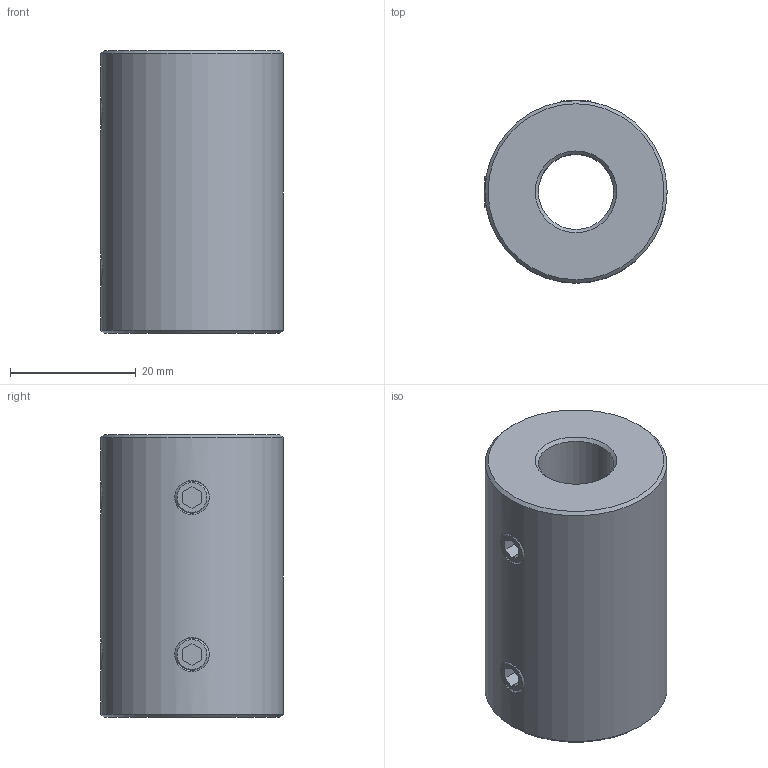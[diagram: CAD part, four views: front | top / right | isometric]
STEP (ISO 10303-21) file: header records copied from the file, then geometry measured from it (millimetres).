
FILE_DESCRIPTION (( 'STEP AP214' ), '1' );
FILE_NAME ('KBST1-VA-12.STEP', '2025-07-29T06:50:08', ( '' ), ( '' ), 'SwSTEP 2.0', 'SolidWorks 2024', '' );
FILE_SCHEMA (( 'AUTOMOTIVE_DESIGN' ));
Length unit declared in the file: millimetre
Products named in the file (1): KBST1-VA-12
Bounding box: 29 x 29 x 45 mm (x, y, z)
Volume: 24700.5 mm3; surface area: 8124.4 mm2
Topology: 5 solids, 5 shells, 80 faces, 178 edges, 104 vertices
Faces by surface type: plane 34, cone 28, cylinder 14, bspline 4
Full cylindrical faces by diameter (mm): 5 x4, 12 x1, 29 x1
Entity records: 7903 total; most frequent: CARTESIAN_POINT 5281, DIRECTION 338, ORIENTED_EDGE 312, EDGE_CURVE 156, AXIS2_PLACEMENT_3D 117, EDGE_LOOP 108, VECTOR 104, VERTEX_POINT 104
